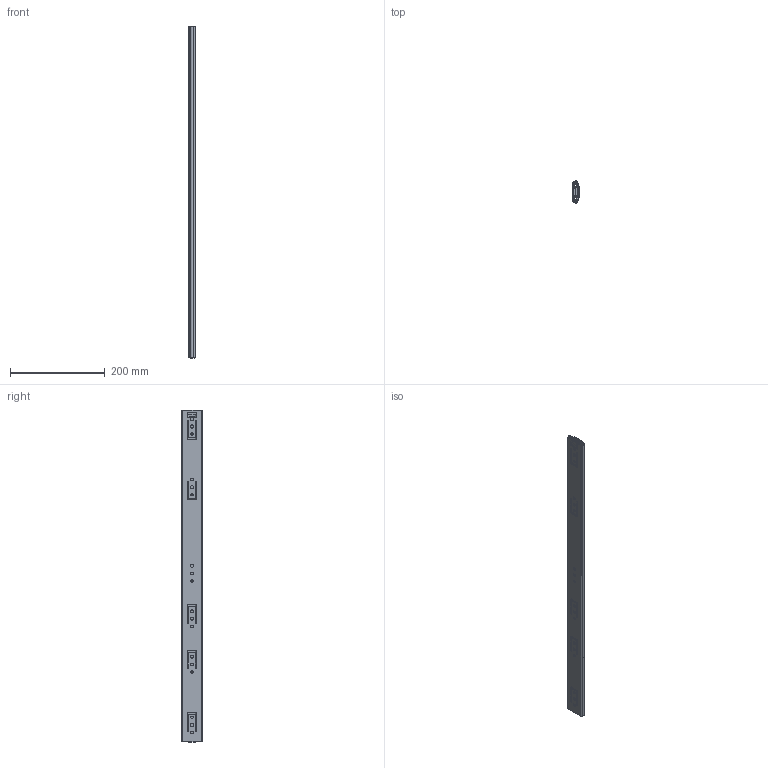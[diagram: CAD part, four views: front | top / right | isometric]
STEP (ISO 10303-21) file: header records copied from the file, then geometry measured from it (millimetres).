
FILE_DESCRIPTION(/* description */ (''),/* implementation_level */ '2;1');
FILE_NAME(/* name */ '\\Nas\db20\L4-700\DR_L4-700.stp',/* time_stamp */ '2018-12-01T16:09:08+09:00',/* author */ ('user'),/* organization */ (''),/* preprocessor_version */ 'ST-DEVELOPER v15.6',/* originating_system */ 'Autodesk Inventor 2015',/* authorisation */ '');
FILE_SCHEMA (('AUTOMOTIVE_DESIGN { 1 0 10303 214 3 1 1 }'));
Length unit declared in the file: millimetre
Products named in the file (1): DR_L4-700
Bounding box: 12.98 x 46 x 701 mm (x, y, z)
Volume: 155099.9 mm3; surface area: 231615.5 mm2
Topology: 8 solids, 8 shells, 261 faces, 734 edges, 487 vertices
Faces by surface type: plane 132, cylinder 127, bspline 2
Full cylindrical faces by diameter (mm): 4.76 x4, 5 x10
Entity records: 8701 total; most frequent: CARTESIAN_POINT 1634, DIRECTION 1485, ORIENTED_EDGE 1434, EDGE_CURVE 717, AXIS2_PLACEMENT_3D 514, VERTEX_POINT 486, LINE 457, VECTOR 457
